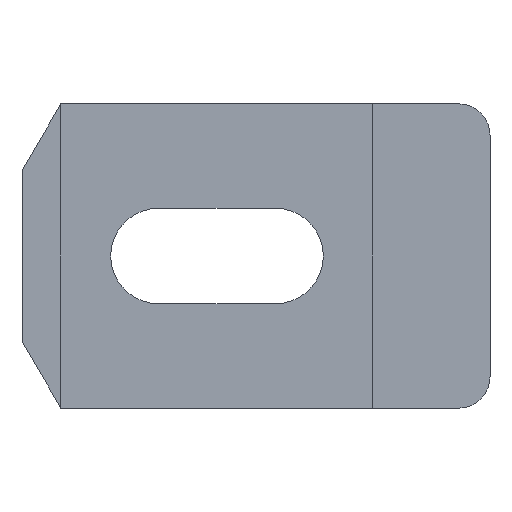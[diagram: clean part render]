
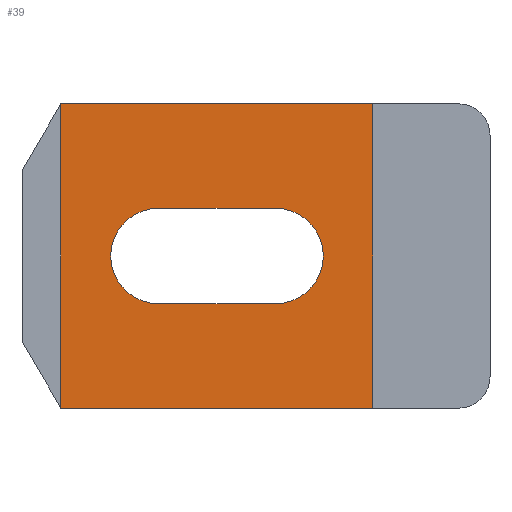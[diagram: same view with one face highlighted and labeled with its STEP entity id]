
A CAD part, front view. The second image highlights one B-rep face of the part: STEP entity #39.
In plain terms, the highlighted planar face has unit normal (0, -1, 0).
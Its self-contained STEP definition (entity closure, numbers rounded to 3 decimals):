
#3 = CARTESIAN_POINT ( 'NONE',  ( -55., 4., 39. ) ) ;
#12 = AXIS2_PLACEMENT_3D ( 'NONE', #3, #389, #27 ) ;
#14 = PLANE ( 'NONE',  #12 ) ;
#17 = CARTESIAN_POINT ( 'NONE',  ( -15., 4., 39. ) ) ;
#21 = CARTESIAN_POINT ( 'NONE',  ( -42.5, 4., 13.375 ) ) ;
#25 = VECTOR ( 'NONE', #221, 1000. ) ;
#27 = DIRECTION ( 'NONE',  ( 0., 0., 1. ) ) ;
#32 = CIRCLE ( 'NONE', #120, 6.125 ) ;
#35 = CIRCLE ( 'NONE', #516, 6.125 ) ;
#39 = ADVANCED_FACE ( 'NONE', ( #212, #628 ), #14, .F. ) ;
#42 = EDGE_CURVE ( 'NONE', #268, #479, #45, .T. ) ;
#45 = LINE ( 'NONE', #57, #182 ) ;
#57 = CARTESIAN_POINT ( 'NONE',  ( -55., 4., 0. ) ) ;
#59 = DIRECTION ( 'NONE',  ( 1., 0., 0. ) ) ;
#66 = EDGE_CURVE ( 'NONE', #238, #77, #259, .T. ) ;
#77 = VERTEX_POINT ( 'NONE', #172 ) ;
#86 = CARTESIAN_POINT ( 'NONE',  ( -55., 4., 39. ) ) ;
#102 = EDGE_CURVE ( 'NONE', #77, #609, #35, .T. ) ;
#120 = AXIS2_PLACEMENT_3D ( 'NONE', #595, #601, #605 ) ;
#125 = DIRECTION ( 'NONE',  ( 1., 0., 0. ) ) ;
#137 = EDGE_CURVE ( 'NONE', #485, #282, #294, .T. ) ;
#138 = CARTESIAN_POINT ( 'NONE',  ( -55., 4., 25.625 ) ) ;
#172 = CARTESIAN_POINT ( 'NONE',  ( -27.5, 4., 25.625 ) ) ;
#182 = VECTOR ( 'NONE', #59, 1000. ) ;
#199 = VERTEX_POINT ( 'NONE', #451 ) ;
#212 = FACE_BOUND ( 'NONE', #585, .T. ) ;
#221 = DIRECTION ( 'NONE',  ( 1., 0., 0. ) ) ;
#229 = CARTESIAN_POINT ( 'NONE',  ( -27.5, 4., 19.5 ) ) ;
#231 = DIRECTION ( 'NONE',  ( 0., 1., 0. ) ) ;
#234 = DIRECTION ( 'NONE',  ( 0., 0., 1. ) ) ;
#238 = VERTEX_POINT ( 'NONE', #527 ) ;
#248 = EDGE_CURVE ( 'NONE', #199, #479, #320, .T. ) ;
#259 = LINE ( 'NONE', #138, #635 ) ;
#268 = VERTEX_POINT ( 'NONE', #599 ) ;
#282 = VERTEX_POINT ( 'NONE', #561 ) ;
#294 = CIRCLE ( 'NONE', #575, 6.125 ) ;
#297 = CARTESIAN_POINT ( 'NONE',  ( -42.5, 4., 19.5 ) ) ;
#298 = EDGE_CURVE ( 'NONE', #282, #238, #32, .T. ) ;
#306 = LINE ( 'NONE', #608, #513 ) ;
#320 = LINE ( 'NONE', #17, #403 ) ;
#321 = DIRECTION ( 'NONE',  ( 0., 1., 0. ) ) ;
#326 = DIRECTION ( 'NONE',  ( 0., 0., 1. ) ) ;
#344 = CARTESIAN_POINT ( 'NONE',  ( -55., 4., 39. ) ) ;
#349 = VERTEX_POINT ( 'NONE', #344 ) ;
#380 = EDGE_CURVE ( 'NONE', #349, #268, #544, .T. ) ;
#389 = DIRECTION ( 'NONE',  ( 0., 1., 0. ) ) ;
#390 = CARTESIAN_POINT ( 'NONE',  ( -15., 4., 0. ) ) ;
#403 = VECTOR ( 'NONE', #626, 1000. ) ;
#421 = VECTOR ( 'NONE', #592, 1000. ) ;
#441 = ORIENTED_EDGE ( 'NONE', *, *, #447, .T. ) ;
#447 = EDGE_CURVE ( 'NONE', #609, #485, #306, .T. ) ;
#451 = CARTESIAN_POINT ( 'NONE',  ( -15., 4., 39. ) ) ;
#459 = EDGE_CURVE ( 'NONE', #349, #199, #633, .T. ) ;
#463 = CARTESIAN_POINT ( 'NONE',  ( -27.5, 4., 13.375 ) ) ;
#469 = ORIENTED_EDGE ( 'NONE', *, *, #137, .T. ) ;
#470 = ORIENTED_EDGE ( 'NONE', *, *, #66, .T. ) ;
#472 = ORIENTED_EDGE ( 'NONE', *, *, #298, .T. ) ;
#479 = VERTEX_POINT ( 'NONE', #390 ) ;
#485 = VERTEX_POINT ( 'NONE', #21 ) ;
#495 = ORIENTED_EDGE ( 'NONE', *, *, #102, .T. ) ;
#503 = ORIENTED_EDGE ( 'NONE', *, *, #42, .T. ) ;
#504 = ORIENTED_EDGE ( 'NONE', *, *, #248, .F. ) ;
#513 = VECTOR ( 'NONE', #535, 1000. ) ;
#516 = AXIS2_PLACEMENT_3D ( 'NONE', #229, #231, #234 ) ;
#526 = ORIENTED_EDGE ( 'NONE', *, *, #459, .F. ) ;
#527 = CARTESIAN_POINT ( 'NONE',  ( -42.5, 4., 25.625 ) ) ;
#535 = DIRECTION ( 'NONE',  ( -1., 0., 0. ) ) ;
#539 = ORIENTED_EDGE ( 'NONE', *, *, #380, .T. ) ;
#544 = LINE ( 'NONE', #563, #421 ) ;
#561 = CARTESIAN_POINT ( 'NONE',  ( -48.625, 4., 19.5 ) ) ;
#563 = CARTESIAN_POINT ( 'NONE',  ( -55., 4., 39. ) ) ;
#575 = AXIS2_PLACEMENT_3D ( 'NONE', #297, #321, #326 ) ;
#585 = EDGE_LOOP ( 'NONE', ( #441, #469, #472, #470, #495 ) ) ;
#592 = DIRECTION ( 'NONE',  ( 0., 0., -1. ) ) ;
#595 = CARTESIAN_POINT ( 'NONE',  ( -42.5, 4., 19.5 ) ) ;
#596 = EDGE_LOOP ( 'NONE', ( #503, #504, #526, #539 ) ) ;
#599 = CARTESIAN_POINT ( 'NONE',  ( -55., 4., 0. ) ) ;
#601 = DIRECTION ( 'NONE',  ( 0., 1., 0. ) ) ;
#605 = DIRECTION ( 'NONE',  ( 0., 0., 1. ) ) ;
#608 = CARTESIAN_POINT ( 'NONE',  ( -55., 4., 13.375 ) ) ;
#609 = VERTEX_POINT ( 'NONE', #463 ) ;
#626 = DIRECTION ( 'NONE',  ( 0., 0., -1. ) ) ;
#628 = FACE_OUTER_BOUND ( 'NONE', #596, .T. ) ;
#633 = LINE ( 'NONE', #86, #25 ) ;
#635 = VECTOR ( 'NONE', #125, 1000. ) ;
